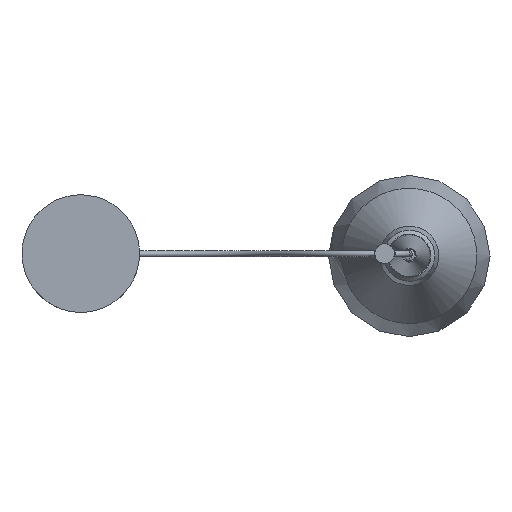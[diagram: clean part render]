
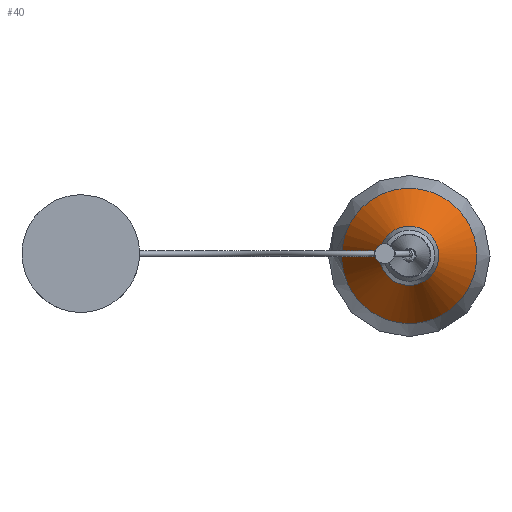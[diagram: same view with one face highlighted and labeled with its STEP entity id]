
A CAD part, top view. The second image highlights one B-rep face of the part: STEP entity #40.
In plain terms, the highlighted free-form (B-spline) face has degree [1, 2] with [2, 9] control points.
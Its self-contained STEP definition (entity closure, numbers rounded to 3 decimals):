
#40=ADVANCED_FACE('',(#67),#338,.T.);
#67=FACE_OUTER_BOUND('',#94,.T.);
#94=EDGE_LOOP('',(#125,#126,#127,#128));
#125=ORIENTED_EDGE('',*,*,#213,.T.);
#126=ORIENTED_EDGE('',*,*,#211,.F.);
#127=ORIENTED_EDGE('',*,*,#212,.F.);
#128=ORIENTED_EDGE('',*,*,#211,.T.);
#211=EDGE_CURVE('',#306,#305,#256,.T.);
#212=EDGE_CURVE('',#306,#306,#268,.T.);
#213=EDGE_CURVE('',#305,#305,#269,.T.);
#256=B_SPLINE_CURVE_WITH_KNOTS('',1,(#632,#633),.UNSPECIFIED.,.F.,.F.,(2,
2),(0.,79.854),.UNSPECIFIED.);
#268=(
BOUNDED_CURVE()
B_SPLINE_CURVE(2,(#634,#635,#636,#637,#638,#639,#640,#641,#642),
 .UNSPECIFIED.,.T.,.F.)
B_SPLINE_CURVE_WITH_KNOTS((3,2,2,2,3),(0.,129.58,259.16,
388.739,518.319),.UNSPECIFIED.)
CURVE()
GEOMETRIC_REPRESENTATION_ITEM()
RATIONAL_B_SPLINE_CURVE((1.,0.707,1.,0.707,1.,0.707,
1.,0.707,1.))
REPRESENTATION_ITEM('')
);
#269=(
BOUNDED_CURVE()
B_SPLINE_CURVE(2,(#643,#644,#645,#646,#647,#648,#649,#650,#651),
 .UNSPECIFIED.,.T.,.F.)
B_SPLINE_CURVE_WITH_KNOTS((3,2,2,2,3),(0.,129.58,259.16,
388.739,518.319),.UNSPECIFIED.)
CURVE()
GEOMETRIC_REPRESENTATION_ITEM()
RATIONAL_B_SPLINE_CURVE((1.,0.707,1.,0.707,1.,0.707,
1.,0.707,1.))
REPRESENTATION_ITEM('')
);
#305=VERTEX_POINT('',#616);
#306=VERTEX_POINT('',#617);
#338=(
BOUNDED_SURFACE()
B_SPLINE_SURFACE(1,2,((#531,#532,#533,#534,#535,#536,#537,#538,#539),(#540,
#541,#542,#543,#544,#545,#546,#547,#548)),.UNSPECIFIED.,.F.,.F.,.F.)
B_SPLINE_SURFACE_WITH_KNOTS((2,2),(3,2,2,2,3),(0.,79.854),(0.,
129.58,259.16,388.739,518.319),
 .UNSPECIFIED.)
GEOMETRIC_REPRESENTATION_ITEM()
RATIONAL_B_SPLINE_SURFACE(((1.,0.707,1.,0.707,1.,
0.707,1.,0.707,1.),(1.,0.707,1.,0.707,
1.,0.707,1.,0.707,1.)))
REPRESENTATION_ITEM('')
SURFACE()
);
#531=CARTESIAN_POINT('',(-4702.795,-642.283,-188.215));
#532=CARTESIAN_POINT('',(-4702.795,-573.333,-188.215));
#533=CARTESIAN_POINT('',(-4633.844,-573.333,-188.215));
#534=CARTESIAN_POINT('',(-4564.894,-573.333,-188.215));
#535=CARTESIAN_POINT('',(-4564.894,-642.283,-188.215));
#536=CARTESIAN_POINT('',(-4564.894,-711.234,-188.215));
#537=CARTESIAN_POINT('',(-4633.844,-711.234,-188.215));
#538=CARTESIAN_POINT('',(-4702.795,-711.234,-188.215));
#539=CARTESIAN_POINT('',(-4702.795,-642.283,-188.215));
#540=CARTESIAN_POINT('',(-4664.069,-642.283,-118.379));
#541=CARTESIAN_POINT('',(-4664.069,-612.058,-118.379));
#542=CARTESIAN_POINT('',(-4633.844,-612.058,-118.379));
#543=CARTESIAN_POINT('',(-4603.619,-612.058,-118.379));
#544=CARTESIAN_POINT('',(-4603.619,-642.283,-118.379));
#545=CARTESIAN_POINT('',(-4603.619,-672.508,-118.379));
#546=CARTESIAN_POINT('',(-4633.844,-672.508,-118.379));
#547=CARTESIAN_POINT('',(-4664.069,-672.508,-118.379));
#548=CARTESIAN_POINT('',(-4664.069,-642.283,-118.379));
#616=CARTESIAN_POINT('',(-4664.069,-642.283,-118.379));
#617=CARTESIAN_POINT('',(-4702.795,-642.283,-188.215));
#632=CARTESIAN_POINT('',(-4702.795,-642.283,-188.215));
#633=CARTESIAN_POINT('',(-4664.069,-642.283,-118.379));
#634=CARTESIAN_POINT('',(-4702.795,-642.283,-188.215));
#635=CARTESIAN_POINT('',(-4702.795,-573.333,-188.215));
#636=CARTESIAN_POINT('',(-4633.844,-573.333,-188.215));
#637=CARTESIAN_POINT('',(-4564.894,-573.333,-188.215));
#638=CARTESIAN_POINT('',(-4564.894,-642.283,-188.215));
#639=CARTESIAN_POINT('',(-4564.894,-711.234,-188.215));
#640=CARTESIAN_POINT('',(-4633.844,-711.234,-188.215));
#641=CARTESIAN_POINT('',(-4702.795,-711.234,-188.215));
#642=CARTESIAN_POINT('',(-4702.795,-642.283,-188.215));
#643=CARTESIAN_POINT('',(-4664.069,-642.283,-118.379));
#644=CARTESIAN_POINT('',(-4664.069,-612.058,-118.379));
#645=CARTESIAN_POINT('',(-4633.844,-612.058,-118.379));
#646=CARTESIAN_POINT('',(-4603.619,-612.058,-118.379));
#647=CARTESIAN_POINT('',(-4603.619,-642.283,-118.379));
#648=CARTESIAN_POINT('',(-4603.619,-672.508,-118.379));
#649=CARTESIAN_POINT('',(-4633.844,-672.508,-118.379));
#650=CARTESIAN_POINT('',(-4664.069,-672.508,-118.379));
#651=CARTESIAN_POINT('',(-4664.069,-642.283,-118.379));
